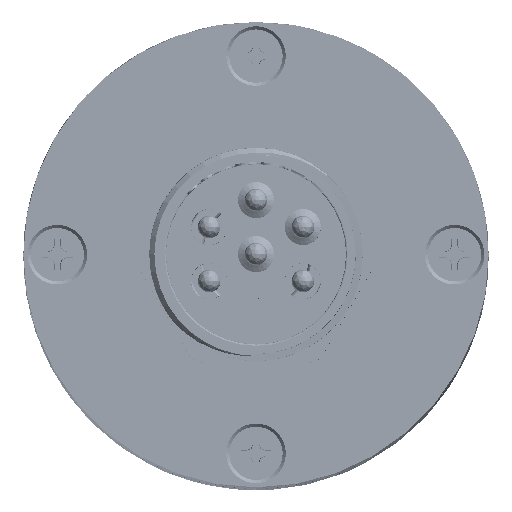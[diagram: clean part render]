
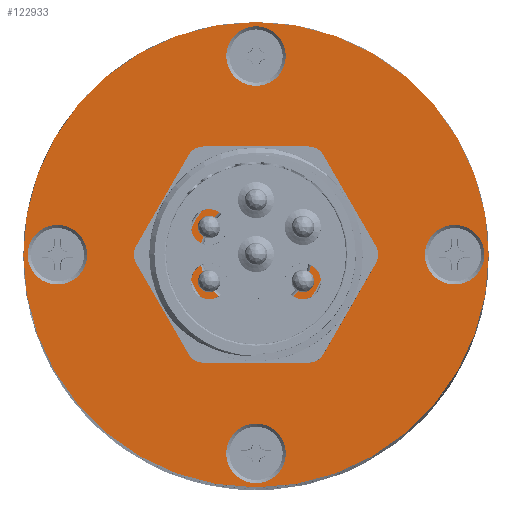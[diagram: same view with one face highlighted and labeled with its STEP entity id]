
A CAD part, top view. The second image highlights one B-rep face of the part: STEP entity #122933.
In plain terms, the highlighted planar face has unit normal (0, 0, 1) as drawn and (0, 1, 0) by its records, which use the part's own axes.
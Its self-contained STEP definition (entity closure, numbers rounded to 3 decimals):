
#2141=FACE_BOUND('',#14354,.T.);
#2142=FACE_BOUND('',#14355,.T.);
#2143=FACE_BOUND('',#14356,.T.);
#2144=FACE_BOUND('',#14357,.T.);
#2145=FACE_BOUND('',#14358,.T.);
#2667=PLANE('',#130710);
#7536=FACE_OUTER_BOUND('',#14353,.T.);
#14353=EDGE_LOOP('',(#86144));
#14354=EDGE_LOOP('',(#86145));
#14355=EDGE_LOOP('',(#86146));
#14356=EDGE_LOOP('',(#86147));
#14357=EDGE_LOOP('',(#86148));
#14358=EDGE_LOOP('',(#86149));
#50756=CIRCLE('',#130711,20.5);
#50757=CIRCLE('',#130712,4.94);
#50758=CIRCLE('',#130713,2.625);
#50759=CIRCLE('',#130714,2.625);
#50760=CIRCLE('',#130715,2.625);
#50761=CIRCLE('',#130716,2.625);
#54065=VERTEX_POINT('',#202720);
#54066=VERTEX_POINT('',#202722);
#54067=VERTEX_POINT('',#202724);
#54068=VERTEX_POINT('',#202726);
#54069=VERTEX_POINT('',#202728);
#54070=VERTEX_POINT('',#202730);
#66513=EDGE_CURVE('',#54065,#54065,#50756,.T.);
#66514=EDGE_CURVE('',#54066,#54066,#50757,.T.);
#66515=EDGE_CURVE('',#54067,#54067,#50758,.T.);
#66516=EDGE_CURVE('',#54068,#54068,#50759,.T.);
#66517=EDGE_CURVE('',#54069,#54069,#50760,.T.);
#66518=EDGE_CURVE('',#54070,#54070,#50761,.T.);
#86144=ORIENTED_EDGE('',*,*,#66513,.F.);
#86145=ORIENTED_EDGE('',*,*,#66514,.F.);
#86146=ORIENTED_EDGE('',*,*,#66515,.T.);
#86147=ORIENTED_EDGE('',*,*,#66516,.T.);
#86148=ORIENTED_EDGE('',*,*,#66517,.T.);
#86149=ORIENTED_EDGE('',*,*,#66518,.T.);
#122933=ADVANCED_FACE('',(#7536,#2141,#2142,#2143,#2144,#2145),#2667,.T.);
#130710=AXIS2_PLACEMENT_3D('',#202719,#141330,#141331);
#130711=AXIS2_PLACEMENT_3D('',#202721,#141332,#141333);
#130712=AXIS2_PLACEMENT_3D('',#202723,#141334,#141335);
#130713=AXIS2_PLACEMENT_3D('',#202725,#141336,#141337);
#130714=AXIS2_PLACEMENT_3D('',#202727,#141338,#141339);
#130715=AXIS2_PLACEMENT_3D('',#202729,#141340,#141341);
#130716=AXIS2_PLACEMENT_3D('',#202731,#141342,#141343);
#141330=DIRECTION('center_axis',(0.,1.,0.));
#141331=DIRECTION('ref_axis',(0.,0.,
1.));
#141332=DIRECTION('center_axis',(0.,-1.,0.));
#141333=DIRECTION('ref_axis',(1.,0.,0.));
#141334=DIRECTION('center_axis',(0.,1.,0.));
#141335=DIRECTION('ref_axis',(0.,0.,
1.));
#141336=DIRECTION('center_axis',(0.,-1.,0.));
#141337=DIRECTION('ref_axis',(0.,0.,
1.));
#141338=DIRECTION('center_axis',(0.,-1.,0.));
#141339=DIRECTION('ref_axis',(0.,0.,
1.));
#141340=DIRECTION('center_axis',(0.,-1.,0.));
#141341=DIRECTION('ref_axis',(0.,0.,
1.));
#141342=DIRECTION('center_axis',(0.,-1.,0.));
#141343=DIRECTION('ref_axis',(0.,0.,
1.));
#202719=CARTESIAN_POINT('Origin',(20.5,28.75,0.));
#202720=CARTESIAN_POINT('',(-20.5,28.75,0.));
#202721=CARTESIAN_POINT('Origin',(0.,28.75,0.));
#202722=CARTESIAN_POINT('',(0.,28.75,-4.94));
#202723=CARTESIAN_POINT('Origin',(0.,28.75,0.));
#202724=CARTESIAN_POINT('',(0.,28.75,14.875));
#202725=CARTESIAN_POINT('Origin',(0.,28.75,17.5));
#202726=CARTESIAN_POINT('',(0.,28.75,-20.125));
#202727=CARTESIAN_POINT('Origin',(0.,28.75,-17.5));
#202728=CARTESIAN_POINT('',(-17.5,28.75,-2.625));
#202729=CARTESIAN_POINT('Origin',(-17.5,28.75,0.));
#202730=CARTESIAN_POINT('',(17.5,28.75,-2.625));
#202731=CARTESIAN_POINT('Origin',(17.5,28.75,0.));
